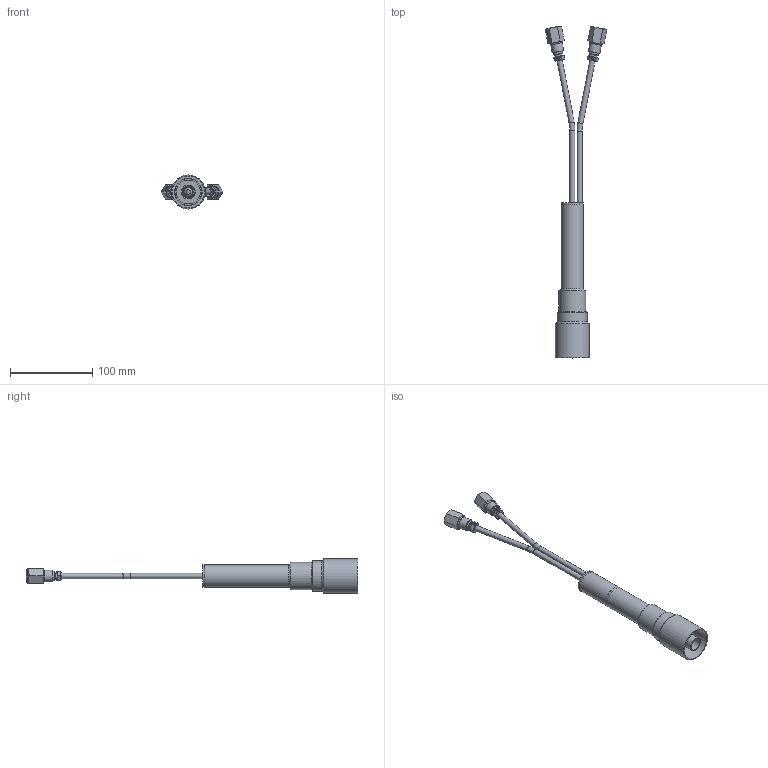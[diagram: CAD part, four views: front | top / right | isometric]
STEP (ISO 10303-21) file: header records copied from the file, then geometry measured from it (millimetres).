
FILE_DESCRIPTION( ( 'Unknown' ), '1' );
FILE_NAME( 'Q:/PROJECTS/Library of Standard Models/ECONOLOADS/8720/8720-150COM.stp', 'Unknown', ( 'Unknown' ), ( 'Unknown' ), 'PSStep 17.0.49', 'Unknown', ' ' );
FILE_SCHEMA( ( 'AUTOMOTIVE_DESIGN { 1 0 10303 214 1 1 1 1 }' ) );
Length unit declared in the file: inch
Products named in the file (1): 1
Bounding box: 74.66 x 402.45 x 41.27 mm (x, y, z)
Surface area: 79236.6 mm2 (no closed solid volume)
Topology: 0 solids, 576 shells, 576 faces, 3020 edges, 2902 vertices
Faces by surface type: plane 261, cylinder 186, cone 70, bspline 48, torus 10, sphere 1
Full cylindrical faces by diameter (mm): 1.575 x4, 3.175 x8, 4.775 x2, 4.826 x4, 5.08 x2, 5.69 x1, 6.35 x7, 6.477 x4, 6.604 x1, 7.366 x2, 7.493 x1, 7.62 x1, 7.722 x1, 8.001 x1, 8.382 x1, 8.585 x1, 8.733 x1, 8.915 x1, 8.966 x1, 9.144 x1, 9.55 x2, 10.16 x1, 10.643 x1, 11.1 x1, 11.112 x2, 11.199 x2, 12.268 x1, 12.446 x1, 12.649 x1, 12.7 x1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
Entity records: 36511 total; most frequent: CARTESIAN_POINT 10748, DIRECTION 4327, VERTEX_POINT 2849, ORIENTED_EDGE 2848, EDGE_CURVE 2848, AXIS2_PLACEMENT_3D 1509, LINE 1306, VECTOR 1306
